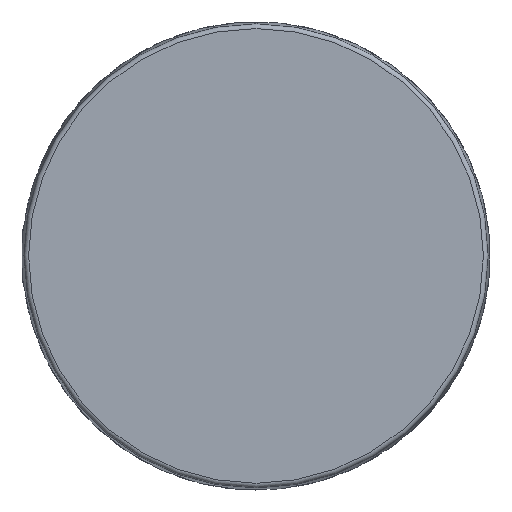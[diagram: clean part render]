
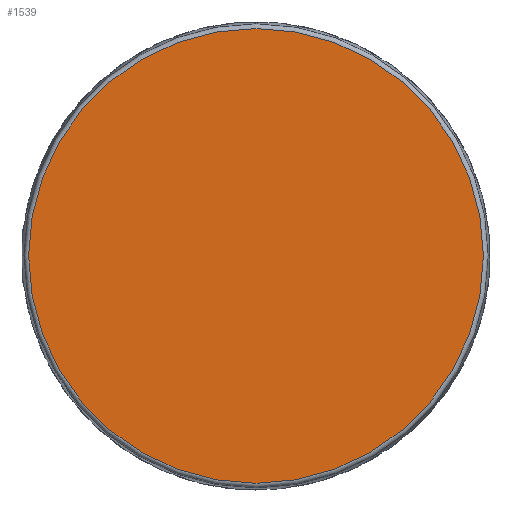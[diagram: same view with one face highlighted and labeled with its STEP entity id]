
A CAD part, top view. The second image highlights one B-rep face of the part: STEP entity #1539.
In plain terms, the highlighted planar face has unit normal (0, 0, 1).
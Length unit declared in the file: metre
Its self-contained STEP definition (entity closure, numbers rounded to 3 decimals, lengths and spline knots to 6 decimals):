
#1539=ADVANCED_FACE('',(#3118),#3119,.T.);
#3118=FACE_OUTER_BOUND('',#10169,.T.);
#3119=PLANE('',#10170);
#10169=EDGE_LOOP('',(#14743));
#10170=AXIS2_PLACEMENT_3D('',#14744,#14745,#14746);
#14743=ORIENTED_EDGE('',*,*,#16927,.T.);
#14744=CARTESIAN_POINT('',(0.,-0.008,0.02175));
#14745=DIRECTION('',(0.0,0.0,1.0));
#14746=DIRECTION('',(-1.0,0.,0.0));
#16927=EDGE_CURVE('',#19910,#19910,#19911,.T.);
#19910=VERTEX_POINT('',#27163);
#19911=CIRCLE('',#27164,0.017004);
#27163=CARTESIAN_POINT('',(-0.017004,0.,0.02175));
#27164=AXIS2_PLACEMENT_3D('',#29575,#29576,#29577);
#29575=CARTESIAN_POINT('',(0.0,0.0,0.02175));
#29576=DIRECTION('',(0.0,0.0,1.0));
#29577=DIRECTION('',(-1.0,0.,0.0));
